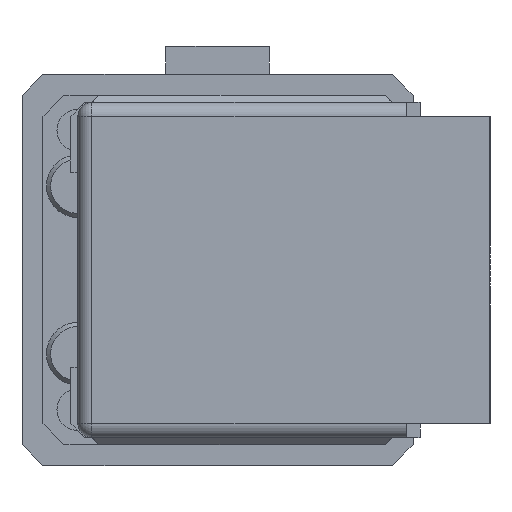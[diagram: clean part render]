
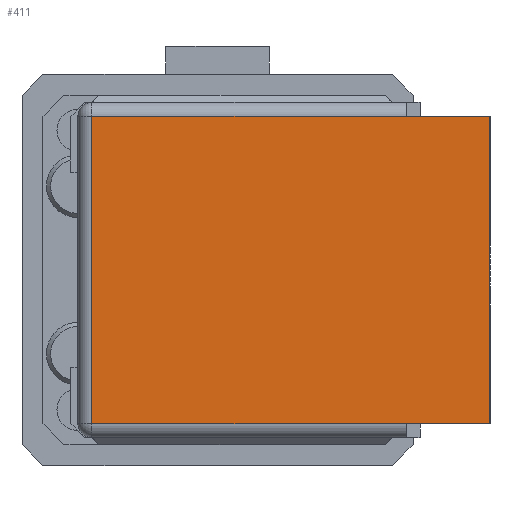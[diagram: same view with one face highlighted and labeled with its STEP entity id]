
A CAD part, left-side view. The second image highlights one B-rep face of the part: STEP entity #411.
In plain terms, the highlighted planar face has unit normal (-1, 0, 0).
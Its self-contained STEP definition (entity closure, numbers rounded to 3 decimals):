
#411 = ADVANCED_FACE ( 'NONE', ( #4040 ), #2736, .F. ) ;
#441 = VECTOR ( 'NONE', #4786, 1000. ) ;
#675 = CARTESIAN_POINT ( 'NONE',  ( 0., 28.5, -11. ) ) ;
#770 = EDGE_CURVE ( 'NONE', #5369, #6347, #7209, .T. ) ;
#933 = EDGE_CURVE ( 'NONE', #6347, #7164, #1743, .T. ) ;
#1144 = ORIENTED_EDGE ( 'NONE', *, *, #770, .T. ) ;
#1289 = VECTOR ( 'NONE', #5766, 1000. ) ;
#1437 = CARTESIAN_POINT ( 'NONE',  ( 0., 6., 11. ) ) ;
#1481 = CARTESIAN_POINT ( 'NONE',  ( 0., 28.5, 11. ) ) ;
#1547 = DIRECTION ( 'NONE',  ( 0., -1., 0. ) ) ;
#1587 = VECTOR ( 'NONE', #1547, 1000. ) ;
#1743 = LINE ( 'NONE', #4645, #7651 ) ;
#2115 = CARTESIAN_POINT ( 'NONE',  ( 0., 28.5, 11. ) ) ;
#2545 = LINE ( 'NONE', #4188, #441 ) ;
#2638 = DIRECTION ( 'NONE',  ( 0., 0., -1. ) ) ;
#2645 = DIRECTION ( 'NONE',  ( 1., 0., 0. ) ) ;
#2654 = CARTESIAN_POINT ( 'NONE',  ( 0., 6., 11. ) ) ;
#2736 = PLANE ( 'NONE',  #5404 ) ;
#3203 = LINE ( 'NONE', #1437, #1587 ) ;
#3485 = CARTESIAN_POINT ( 'NONE',  ( 0., 0., 11. ) ) ;
#3707 = ORIENTED_EDGE ( 'NONE', *, *, #933, .T. ) ;
#3719 = EDGE_CURVE ( 'NONE', #7359, #7733, #7790, .T. ) ;
#3800 = ORIENTED_EDGE ( 'NONE', *, *, #3719, .T. ) ;
#4040 = FACE_OUTER_BOUND ( 'NONE', #7558, .T. ) ;
#4188 = CARTESIAN_POINT ( 'NONE',  ( 0., 0., 11. ) ) ;
#4192 = DIRECTION ( 'NONE',  ( 0., -1., 0. ) ) ;
#4645 = CARTESIAN_POINT ( 'NONE',  ( 0., 6., -11. ) ) ;
#4786 = DIRECTION ( 'NONE',  ( 0., 0., 1. ) ) ;
#4998 = ORIENTED_EDGE ( 'NONE', *, *, #5223, .F. ) ;
#5119 = VERTEX_POINT ( 'NONE', #3485 ) ;
#5223 = EDGE_CURVE ( 'NONE', #7359, #5119, #3203, .T. ) ;
#5369 = VERTEX_POINT ( 'NONE', #675 ) ;
#5404 = AXIS2_PLACEMENT_3D ( 'NONE', #2654, #2645, #2638 ) ;
#5447 = CARTESIAN_POINT ( 'NONE',  ( 0., 6., -11. ) ) ;
#5487 = CARTESIAN_POINT ( 'NONE',  ( 0., 6., 11. ) ) ;
#5675 = VECTOR ( 'NONE', #6630, 1000. ) ;
#5766 = DIRECTION ( 'NONE',  ( 0., 1., 0. ) ) ;
#5822 = ORIENTED_EDGE ( 'NONE', *, *, #6867, .T. ) ;
#5973 = LINE ( 'NONE', #2115, #7679 ) ;
#6227 = DIRECTION ( 'NONE',  ( 0., 0., -1. ) ) ;
#6242 = CARTESIAN_POINT ( 'NONE',  ( 0., 0., -11. ) ) ;
#6347 = VERTEX_POINT ( 'NONE', #5447 ) ;
#6470 = CARTESIAN_POINT ( 'NONE',  ( 0., 6., 11. ) ) ;
#6587 = EDGE_CURVE ( 'NONE', #7733, #5369, #5973, .T. ) ;
#6630 = DIRECTION ( 'NONE',  ( 0., -1., 0. ) ) ;
#6796 = CARTESIAN_POINT ( 'NONE',  ( 0., 6., -11. ) ) ;
#6867 = EDGE_CURVE ( 'NONE', #7164, #5119, #2545, .T. ) ;
#7059 = ORIENTED_EDGE ( 'NONE', *, *, #6587, .T. ) ;
#7164 = VERTEX_POINT ( 'NONE', #6242 ) ;
#7209 = LINE ( 'NONE', #6796, #5675 ) ;
#7359 = VERTEX_POINT ( 'NONE', #6470 ) ;
#7558 = EDGE_LOOP ( 'NONE', ( #7059, #1144, #3707, #5822, #4998, #3800 ) ) ;
#7651 = VECTOR ( 'NONE', #4192, 1000. ) ;
#7679 = VECTOR ( 'NONE', #6227, 1000. ) ;
#7733 = VERTEX_POINT ( 'NONE', #1481 ) ;
#7790 = LINE ( 'NONE', #5487, #1289 ) ;
